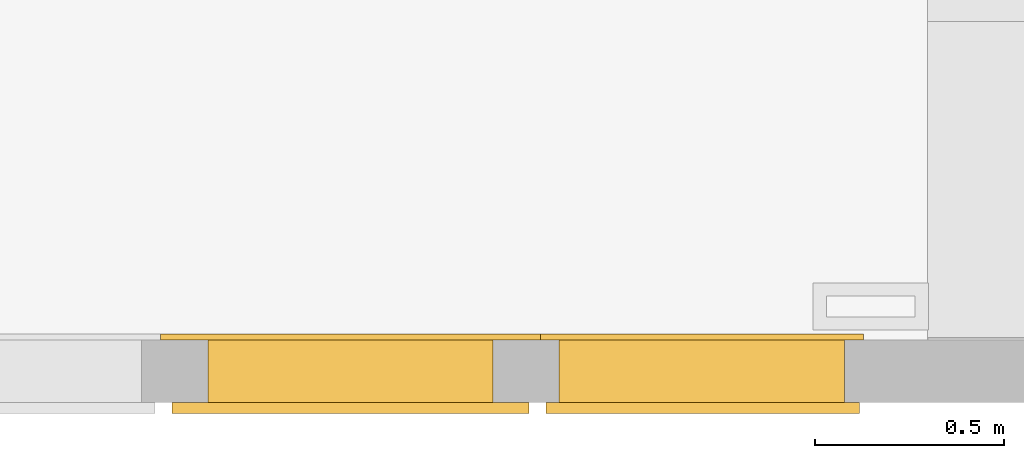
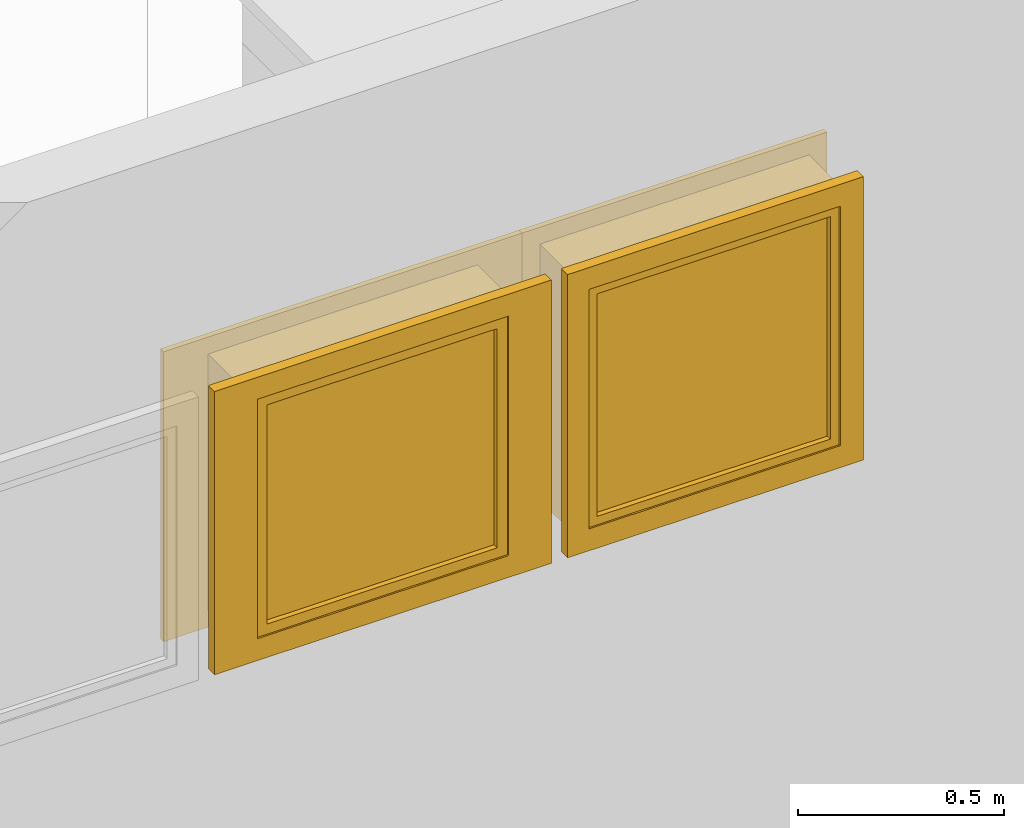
# One storey, part 33 of 77: 2 windows.
"""IFC2X3 building model written with IfcOpenShell, lengths in inches."""

import ifcopenshell
import ifcopenshell.guid

model = None  # the IFC model being written
_history = None  # IfcOwnerHistory: only IFC2X3 demands one
_inside = {}  # id of a spatial element -> (the spatial element, [elements in it])
_under = {}  # id of a project, library or spatial element -> (it, [spatial elements below it])
_declared = {}  # id of a project -> (the project, [libraries it declares])
_typed = {}  # id of a type object -> (the type object, [elements of that type])
_made_of = {}  # id of a material, layer set ... -> (it, [elements and type objects made of it])


def new_model(schema):
    """Start an empty IFC model of exactly this schema.

    Asked for "IFC4X3", IfcOpenShell would pick the latest addendum, in which some entities
    have other attributes; the version numbers below select the first issue.
    IFC2X3 requires an IfcOwnerHistory on every rooted entity: one is made here for all.
    """
    global model, _history
    if schema == "IFC4X3":
        model = ifcopenshell.file(schema_version=(4, 3, 0, 0))
    else:
        model = ifcopenshell.file(schema=schema)
    _inside.clear()
    _under.clear()
    _declared.clear()
    _typed.clear()
    _made_of.clear()
    _history = None
    if model.schema == "IFC2X3":
        org = make("IfcOrganization", Name="unknown")
        user = make(
            "IfcPersonAndOrganization",
            ThePerson=make("IfcPerson", FamilyName="unknown"),
            TheOrganization=org,
        )
        app = make(
            "IfcApplication",
            ApplicationDeveloper=org,
            Version="unknown",
            ApplicationFullName="unknown",
            ApplicationIdentifier="unknown",
        )
        _history = make(
            "IfcOwnerHistory",
            OwningUser=user,
            OwningApplication=app,
            ChangeAction="ADDED",
            CreationDate=0,
        )
    return model


def make(cls, **values):
    """One entity of the class cls with the attributes given. An attribute that is None is left unset."""
    return model.create_entity(
        cls, **{name: value for name, value in values.items() if value is not None}
    )


def entity(cls, *values):
    """Any entity or typed value of the class cls, its attributes in the order of the schema. None: left unset."""
    e = model.create_entity(cls)
    for i, value in enumerate(values):
        if value is not None:
            e[i] = value
    return e


def rooted(cls, **values):
    """An entity with a GlobalId (a new one), such as an element, a storey or a relation."""
    return make(cls, GlobalId=ifcopenshell.guid.new(), OwnerHistory=_history, **values)


def si_unit(unit_type, name, prefix=None):
    """IfcSIUnit, for example si_unit("LENGTHUNIT", "METRE", prefix="MILLI")."""
    return make("IfcSIUnit", UnitType=unit_type, Prefix=prefix, Name=name)


def converted_unit(unit_type, name, factor, base, dimensions=None, offset=None):
    """IfcConversionBasedUnit, such as the inch: factor (a typed value) times the base unit."""
    return make(
        "IfcConversionBasedUnit"
        if offset is None
        else "IfcConversionBasedUnitWithOffset",
        ConversionOffset=offset,
        Dimensions=None
        if dimensions is None
        else entity("IfcDimensionalExponents", *dimensions),
        UnitType=unit_type,
        Name=name,
        ConversionFactor=make(
            "IfcMeasureWithUnit", ValueComponent=factor, UnitComponent=base
        ),
    )


def derived_unit(unit_type, elements):
    """IfcDerivedUnit: a product of units, each with its exponent."""
    return make(
        "IfcDerivedUnit",
        Elements=[
            make("IfcDerivedUnitElement", Unit=unit, Exponent=power)
            for unit, power in elements
        ],
        UnitType=unit_type,
    )


def money_unit(currency):
    """IfcMonetaryUnit."""
    return make("IfcMonetaryUnit", Currency=currency)


def assignment(units):
    """IfcUnitAssignment: the units of a project."""
    return None if units is None else make("IfcUnitAssignment", Units=units)


def point(xyz):
    """IfcCartesianPoint."""
    return None if xyz is None else make("IfcCartesianPoint", Coordinates=xyz)


def direction(xyz):
    """IfcDirection."""
    return None if xyz is None else make("IfcDirection", DirectionRatios=xyz)


def frame(location, z_axis=None, x_axis=None):
    """IfcAxis2Placement3D, a coordinate frame: its origin and axes. An axis left out is left unset."""
    return make(
        "IfcAxis2Placement3D",
        Location=point(location),
        Axis=direction(z_axis),
        RefDirection=direction(x_axis),
    )


def origin_with_axes():
    """The frame at (0, 0, 0) with the z axis (0, 0, 1) and the x axis (1, 0, 0) written out."""
    return frame((0.0, 0.0, 0.0), z_axis=(0.0, 0.0, 1.0), x_axis=(1.0, 0.0, 0.0))


def place(relative_to, where):
    """IfcLocalPlacement: puts the frame where relative to a parent placement (None: the world)."""
    return make(
        "IfcLocalPlacement", PlacementRelTo=relative_to, RelativePlacement=where
    )


def context(
    kind, dimensions, precision=None, world=None, true_north=None, identifier=None
):
    """IfcGeometricRepresentationContext, for example the 3D "Model" context."""
    return make(
        "IfcGeometricRepresentationContext",
        ContextIdentifier=identifier,
        ContextType=kind,
        CoordinateSpaceDimension=dimensions,
        Precision=precision,
        WorldCoordinateSystem=world,
        TrueNorth=true_north,
    )


def subcontext(parent, identifier, kind, view, scale=None):
    """IfcGeometricRepresentationSubContext, for example "Body" below "Model"."""
    return make(
        "IfcGeometricRepresentationSubContext",
        ContextIdentifier=identifier,
        ContextType=kind,
        ParentContext=parent,
        TargetScale=scale,
        TargetView=view,
    )


def project(units=None, contexts=None):
    """IfcProject with its units and contexts."""
    return rooted(
        "IfcProject",
        Name="project",
        RepresentationContexts=contexts,
        UnitsInContext=assignment(units),
    )


def spatial(cls, under=None, at=None, **own):
    """A site, building, storey or space (cls), placed at a placement, below another one or the project."""
    s = rooted(cls, ObjectPlacement=at, **own)
    if under is not None:
        _under.setdefault(under.id(), (under, []))[1].append(s)
    return s


def faces_of(points, faces, orient=None, outer=None):
    """IfcFace entities. A face is a list of loops; a loop is a list of indices into points, from 0.

    orient and outer hold one flag for each loop. By default every Orientation is true, the
    first loop of a face is its IfcFaceOuterBound and the others are IfcFaceBound.
    """
    made = []
    for i, loops in enumerate(faces):
        bounds = []
        for j, loop in enumerate(loops):
            is_outer = j == 0 if outer is None else outer[i][j]
            bounds.append(
                make(
                    "IfcFaceOuterBound" if is_outer else "IfcFaceBound",
                    Bound=make("IfcPolyLoop", Polygon=[points[k] for k in loop]),
                    Orientation=True if orient is None else orient[i][j],
                )
            )
        made.append(make("IfcFace", Bounds=bounds))
    return made


def open_shell(faces, orient=None, outer=None):
    """The faces of one IfcOpenShell. surface_model builds it on its shared points."""
    return ("IfcOpenShell", faces, orient, outer)


def faceted_brep(points, faces, orient=None, outer=None, voids=None):
    """IfcFacetedBrep: a solid bounded by flat faces; with voids (closed shells), ...WithVoids."""
    shared = [point(p) for p in points]
    hull = make("IfcClosedShell", CfsFaces=faces_of(shared, faces, orient, outer))
    if voids is None:
        return make("IfcFacetedBrep", Outer=hull)
    return make(
        "IfcFacetedBrepWithVoids",
        Outer=hull,
        Voids=[
            make(cls, CfsFaces=faces_of(shared, fs, o, b)) for cls, fs, o, b in voids
        ],
    )


def surface_model(cls, points, shells):
    """IfcFaceBasedSurfaceModel or IfcShellBasedSurfaceModel (cls): surfaces that need not close."""
    shared = [point(p) for p in points]
    made = [make(c, CfsFaces=faces_of(shared, fs, o, b)) for c, fs, o, b in shells]
    if cls == "IfcFaceBasedSurfaceModel":
        return make(cls, FbsmFaces=made)
    return make(cls, SbsmBoundary=made)


def shape(context_of_items, identifier, shape_type, items):
    """IfcShapeRepresentation: the items that make up one representation, for example the "Body"."""
    return make(
        "IfcShapeRepresentation",
        ContextOfItems=context_of_items,
        RepresentationIdentifier=identifier,
        RepresentationType=shape_type,
        Items=items,
    )


def made_of(thing, what):
    """Note that an element or type object is made of a material, layer set ...; save() writes the relation."""
    if what is not None:
        _made_of.setdefault(what.id(), (what, []))[1].append(thing)
    return thing


def type_object(cls, material=None, **own):
    """A type object (cls), such as IfcWallType, which elements share."""
    return made_of(rooted(cls, **own), material)


def element(
    cls,
    number,
    at=None,
    inside=None,
    cuts=None,
    type_object=None,
    material=None,
    context=None,
    identifier="Body",
    shape_type=None,
    held_by="IfcProductDefinitionShape",
    body=None,
    shapes=None,
    **own,
):
    """One element of the class cls, such as IfcWall. Its Tag is "e" and its number.

    at: its placement. inside: the storey or other place that contains it. cuts: it is an
    opening in that element (IfcRelVoidsElement). A single representation is given by context,
    identifier, shape_type and body (its items); several are given by shapes. held_by: the class
    of the entity that holds the representations. save() writes the other relations.
    """
    e = rooted(cls, Tag="e%d" % number, ObjectPlacement=at, **own)
    if body is not None:
        shapes = [shape(context, identifier, shape_type, body)]
    if shapes is not None:
        e.Representation = make(held_by, Representations=shapes)
    if inside is not None:
        _inside.setdefault(inside.id(), (inside, []))[1].append(e)
    if cuts is not None:
        rooted(
            "IfcRelVoidsElement", RelatingBuildingElement=cuts, RelatedOpeningElement=e
        )
    if type_object is not None:
        _typed.setdefault(type_object.id(), (type_object, []))[1].append(e)
    return made_of(e, material)


def aggregate(whole, parts):
    """IfcRelAggregates: a whole, such as a stair, and the parts it consists of."""
    return rooted("IfcRelAggregates", RelatingObject=whole, RelatedObjects=parts)


def save(model, path):
    """Write the relations noted so far, then the file.

    IfcRelAggregates (storeys below a building ...), IfcRelContainedInSpatialStructure (elements
    in a storey), IfcRelDefinesByType, IfcRelAssociatesMaterial and IfcRelDeclares: one each for
    every whole, place, type object, material and project.
    """
    for whole, parts in _under.values():
        aggregate(whole, parts)
    for where, things in _inside.values():
        rooted(
            "IfcRelContainedInSpatialStructure",
            RelatedElements=things,
            RelatingStructure=where,
        )
    for kind, things in _typed.values():
        rooted("IfcRelDefinesByType", RelatedObjects=things, RelatingType=kind)
    for what, things in _made_of.values():
        rooted("IfcRelAssociatesMaterial", RelatedObjects=things, RelatingMaterial=what)
    for by, libraries in _declared.values():
        rooted("IfcRelDeclares", RelatingContext=by, RelatedDefinitions=libraries)
    model.write(path)


model = new_model("IFC2X3")

# Units and contexts
model_context = context("Model", 3, precision=0.000393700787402, world=origin_with_axes(), true_north=direction((0.0, 1.0)))
body_context = subcontext(model_context, "Body", "Model", "MODEL_VIEW")
ifc_project = project(units=[converted_unit("LENGTHUNIT", "INCH", entity("IfcPositiveLengthMeasure", 0.0254), si_unit("LENGTHUNIT", "METRE"), dimensions=[1, 0, 0, 0, 0, 0, 0]), converted_unit("AREAUNIT", "SQUARE_FOOT", entity("IfcPositiveLengthMeasure", 0.09290304), si_unit("AREAUNIT", "SQUARE_METRE"), dimensions=[2, 0, 0, 0, 0, 0, 0]), si_unit("PLANEANGLEUNIT", "RADIAN"), si_unit("SOLIDANGLEUNIT", "STERADIAN"), money_unit("USD"), converted_unit("TIMEUNIT", "Year", entity("IfcTimeMeasure", 31556926.0), si_unit("TIMEUNIT", "SECOND"), dimensions=[0, 0, 1, 0, 0, 0, 0]), si_unit("MASSUNIT", "GRAM", prefix="KILO"), si_unit("THERMODYNAMICTEMPERATUREUNIT", "DEGREE_CELSIUS"), si_unit("LUMINOUSINTENSITYUNIT", "LUMEN"), si_unit("ENERGYUNIT", "JOULE", prefix="MEGA"), derived_unit("THERMALCONDUCTANCEUNIT", [(si_unit("POWERUNIT", "WATT"), 1), (si_unit("LENGTHUNIT", "METRE"), -1), (si_unit("THERMODYNAMICTEMPERATUREUNIT", "KELVIN"), -1)]), derived_unit("SPECIFICHEATCAPACITYUNIT", [(si_unit("ENERGYUNIT", "JOULE"), 1), (si_unit("MASSUNIT", "GRAM", prefix="KILO"), -1), (si_unit("THERMODYNAMICTEMPERATUREUNIT", "KELVIN"), -1)]), derived_unit("MASSDENSITYUNIT", [(si_unit("MASSUNIT", "GRAM", prefix="KILO"), 1), (si_unit("VOLUMEUNIT", "CUBIC_METRE"), -1)])], contexts=[model_context])

# Site, building, storey
site_placement = place(None, origin_with_axes())
site = spatial("IfcSite", under=ifc_project, at=site_placement, Name="Site", CompositionType="ELEMENT")
building_placement = place(site_placement, origin_with_axes())
building = spatial("IfcBuilding", under=site, at=building_placement, Name="Building", CompositionType="ELEMENT")
storey_placement = place(building_placement, frame((0.0, 0.0, 127.952755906), z_axis=(0.0, 0.0, 1.0), x_axis=(1.0, 0.0, 0.0)))
storey = spatial("IfcBuildingStorey", under=building, at=storey_placement, Name="Second Floor", CompositionType="ELEMENT", Elevation=127.953)

# Windows
window_style_1 = type_object("IfcWindowStyle", Name="Window 25", ConstructionType="NOTDEFINED", OperationType="SINGLE_PANEL", ParameterTakesPrecedence=False, Sizeable=False)
window_1_placement = place(storey_placement, frame((562.690080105, 19.4073911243, 64.7637795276), z_axis=(0.0, 0.0, 1.0), x_axis=(-0.999999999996, -2.92832620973e-06, 0.0)))
element("IfcWindow", 1, at=window_1_placement, inside=storey, type_object=window_style_1, Name="W-09", OverallHeight=29.9213, OverallWidth=29.7244, context=body_context, shape_type="SurfaceModel", body=[
    faceted_brep([(29.7244094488, 0.397637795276, 0.0), (29.7244094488, 0.0, 0.0), (0.0, 0.0, 0.0), (0.0, 0.397637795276, 0.0), (29.7244094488, 0.397637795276, 29.9212598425), (29.7244094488, 0.0, 29.9212598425), (0.0, 0.0, 29.9212598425), (29.5275590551, 0.0, 0.196850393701), (0.196850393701, 0.0, 0.196850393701), (0.196850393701, 0.0, 29.7244094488), (29.5275590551, 0.0, 29.7244094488), (0.0, 0.397637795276, 29.9212598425), (29.5275590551, 0.397637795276, 0.196850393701), (29.5275590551, 0.397637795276, 29.7244094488), (0.196850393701, 0.397637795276, 29.7244094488), (0.196850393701, 0.397637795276, 0.196850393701)], [[[0, 1, 2, 3]], [[4, 5, 1, 0]], [[1, 5, 6, 2], [7, 8, 9, 10]], [[3, 2, 6, 11]], [[0, 3, 11, 4], [12, 13, 14, 15]], [[11, 6, 5, 4]], [[15, 8, 7, 12]], [[14, 9, 8, 15]], [[13, 10, 9, 14]], [[12, 7, 10, 13]]]),
    faceted_brep([(34.6456692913, -0.590551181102, -1.96850393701), (29.7244094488, -0.590551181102, 0.0), (29.7244094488, 0.0, 0.0), (34.6456692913, 0.0, -1.96850393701), (34.6456692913, -0.590551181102, 31.8897637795), (29.7244094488, -0.590551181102, 29.9212598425), (29.7244094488, 0.0, 29.9212598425), (34.6456692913, 0.0, 31.8897637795)], [[[0, 1, 2, 3]], [[0, 4, 5, 1]], [[1, 5, 6, 2]], [[3, 2, 6, 7]], [[4, 0, 3, 7]], [[5, 4, 7, 6]]]),
    faceted_brep([(-4.92125984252, -0.590551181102, 31.8897637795), (0.0, -0.590551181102, 29.9212598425), (0.0, 0.0, 29.9212598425), (-4.92125984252, 0.0, 31.8897637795), (-4.92125984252, -0.590551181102, -1.96850393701), (0.0, -0.590551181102, 0.0), (0.0, 0.0, 0.0), (-4.92125984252, 0.0, -1.96850393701)], [[[0, 1, 2, 3]], [[0, 4, 5, 1]], [[1, 5, 6, 2]], [[3, 2, 6, 7]], [[4, 0, 3, 7]], [[5, 4, 7, 6]]]),
    faceted_brep([(-4.92125984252, -0.590551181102, -1.96850393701), (0.0, -0.590551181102, 0.0), (0.0, 0.0, 0.0), (-4.92125984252, 0.0, -1.96850393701), (34.6456692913, -0.590551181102, -1.96850393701), (29.7244094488, -0.590551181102, 0.0), (29.7244094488, 0.0, 0.0), (34.6456692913, 0.0, -1.96850393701)], [[[0, 1, 2, 3]], [[0, 4, 5, 1]], [[1, 5, 6, 2]], [[3, 2, 6, 7]], [[4, 0, 3, 7]], [[5, 4, 7, 6]]]),
    faceted_brep([(34.6456692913, -0.590551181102, 31.8897637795), (29.7244094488, -0.590551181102, 29.9212598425), (29.7244094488, 0.0, 29.9212598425), (34.6456692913, 0.0, 31.8897637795), (-4.92125984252, -0.590551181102, 31.8897637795), (0.0, -0.590551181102, 29.9212598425), (0.0, 0.0, 29.9212598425), (-4.92125984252, 0.0, 31.8897637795)], [[[0, 1, 2, 3]], [[0, 4, 5, 1]], [[1, 5, 6, 2]], [[3, 2, 6, 7]], [[4, 0, 3, 7]], [[5, 4, 7, 6]]]),
    faceted_brep([(33.4645669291, 7.6811023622, -1.57480314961), (33.4645669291, 6.5, -1.57480314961), (28.7401574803, 6.5, 0.984251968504), (28.7401574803, 7.6811023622, 0.984251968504), (33.4645669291, 7.6811023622, 31.4960629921), (33.4645669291, 6.5, 31.4960629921), (28.7401574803, 6.5, 28.937007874), (28.7401574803, 7.6811023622, 28.937007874)], [[[0, 1, 2, 3]], [[4, 5, 1, 0]], [[1, 5, 6, 2]], [[3, 2, 6, 7]], [[0, 3, 7, 4]], [[7, 6, 5, 4]]]),
    faceted_brep([(-3.74015748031, 7.6811023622, 31.4960629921), (-3.74015748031, 6.5, 31.4960629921), (0.984251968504, 6.5, 28.937007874), (0.984251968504, 7.6811023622, 28.937007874), (-3.74015748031, 7.6811023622, -1.57480314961), (-3.74015748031, 6.5, -1.57480314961), (0.984251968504, 6.5, 0.984251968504), (0.984251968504, 7.6811023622, 0.984251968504)], [[[0, 1, 2, 3]], [[4, 5, 1, 0]], [[1, 5, 6, 2]], [[3, 2, 6, 7]], [[0, 3, 7, 4]], [[7, 6, 5, 4]]]),
    faceted_brep([(-3.74015748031, 7.6811023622, -1.57480314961), (-3.74015748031, 6.5, -1.57480314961), (0.984251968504, 6.5, 0.984251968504), (0.984251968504, 7.6811023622, 0.984251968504), (33.4645669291, 7.6811023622, -1.57480314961), (33.4645669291, 6.5, -1.57480314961), (28.7401574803, 6.5, 0.984251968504), (28.7401574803, 7.6811023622, 0.984251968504)], [[[0, 1, 2, 3]], [[4, 5, 1, 0]], [[1, 5, 6, 2]], [[3, 2, 6, 7]], [[0, 3, 7, 4]], [[7, 6, 5, 4]]]),
    faceted_brep([(33.4645669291, 7.6811023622, 31.4960629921), (33.4645669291, 6.5, 31.4960629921), (28.7401574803, 6.5, 28.937007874), (28.7401574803, 7.6811023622, 28.937007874), (-3.74015748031, 7.6811023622, 31.4960629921), (-3.74015748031, 6.5, 31.4960629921), (0.984251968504, 6.5, 28.937007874), (0.984251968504, 7.6811023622, 28.937007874)], [[[0, 1, 2, 3]], [[4, 5, 1, 0]], [[1, 5, 6, 2]], [[3, 2, 6, 7]], [[0, 3, 7, 4]], [[7, 6, 5, 4]]]),
    faceted_brep([(29.5275590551, 6.5, 28.7401574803), (29.5275590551, 5.5157480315, 28.7401574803), (28.5433070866, 5.5157480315, 28.7401574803), (28.5433070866, 0.397637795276, 28.7401574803), (29.7244094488, 0.397637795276, 28.7401574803), (29.7244094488, 6.5, 28.7401574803), (29.5275590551, 6.5, 1.1811023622), (29.5275590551, 5.5157480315, 1.1811023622), (28.5433070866, 5.5157480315, 1.1811023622), (28.5433070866, 0.397637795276, 1.1811023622), (29.7244094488, 0.397637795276, 1.1811023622), (29.7244094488, 6.5, 1.1811023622)], [[[0, 1, 2, 3, 4, 5]], [[1, 0, 6, 7]], [[8, 2, 1, 7]], [[2, 8, 9, 3]], [[4, 3, 9, 10]], [[5, 4, 10, 11]], [[6, 0, 5, 11]], [[7, 6, 11, 10, 9, 8]]]),
    faceted_brep([(1.1811023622, 5.5157480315, 28.7401574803), (0.196850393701, 5.5157480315, 28.7401574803), (0.196850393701, 6.5, 28.7401574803), (0.0, 6.5, 28.7401574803), (0.0, 0.397637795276, 28.7401574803), (1.1811023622, 0.397637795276, 28.7401574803), (1.1811023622, 5.5157480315, 1.1811023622), (0.196850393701, 5.5157480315, 1.1811023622), (0.196850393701, 6.5, 1.1811023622), (0.0, 6.5, 1.1811023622), (0.0, 0.397637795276, 1.1811023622), (1.1811023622, 0.397637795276, 1.1811023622)], [[[0, 1, 2, 3, 4, 5]], [[1, 0, 6, 7]], [[8, 2, 1, 7]], [[2, 8, 9, 3]], [[9, 10, 4, 3]], [[10, 11, 5, 4]], [[6, 0, 5, 11]], [[7, 6, 11, 10, 9, 8]]]),
    faceted_brep([(1.1811023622, 5.5157480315, 1.1811023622), (0.196850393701, 5.5157480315, 1.1811023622), (0.196850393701, 6.5, 1.1811023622), (0.0, 6.5, 1.1811023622), (0.0, 0.397637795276, 1.1811023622), (1.1811023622, 0.397637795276, 1.1811023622), (28.5433070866, 5.5157480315, 1.1811023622), (29.5275590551, 5.5157480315, 1.1811023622), (29.5275590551, 5.5157480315, 0.196850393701), (0.196850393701, 5.5157480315, 0.196850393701), (0.196850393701, 6.5, 0.196850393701), (29.5275590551, 6.5, 0.196850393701), (29.5275590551, 6.5, 1.1811023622), (29.7244094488, 6.5, 1.1811023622), (29.7244094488, 6.5, 0.0), (0.0, 6.5, 0.0), (0.0, 0.397637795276, 0.0), (29.7244094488, 0.397637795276, 1.1811023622), (28.5433070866, 0.397637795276, 1.1811023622), (29.7244094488, 0.397637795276, 0.0)], [[[0, 1, 2, 3, 4, 5]], [[1, 0, 6, 7, 8, 9]], [[10, 2, 1, 9]], [[11, 12, 13, 14, 15, 3, 2, 10]], [[15, 16, 4, 3]], [[17, 18, 5, 4, 16, 19]], [[6, 0, 5, 18]], [[7, 6, 18, 17, 13, 12]], [[7, 12, 11, 8]], [[11, 10, 9, 8]], [[13, 17, 19, 14]], [[14, 19, 16, 15]]]),
    faceted_brep([(29.5275590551, 6.5, 28.7401574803), (29.5275590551, 6.5, 29.7244094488), (0.196850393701, 6.5, 29.7244094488), (0.196850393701, 6.5, 28.7401574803), (0.0, 6.5, 28.7401574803), (0.0, 6.5, 29.9212598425), (29.7244094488, 6.5, 29.9212598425), (29.7244094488, 6.5, 28.7401574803), (29.5275590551, 5.5157480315, 28.7401574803), (29.5275590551, 5.5157480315, 29.7244094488), (0.196850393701, 5.5157480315, 29.7244094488), (0.196850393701, 5.5157480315, 28.7401574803), (1.1811023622, 5.5157480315, 28.7401574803), (1.1811023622, 0.397637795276, 28.7401574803), (0.0, 0.397637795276, 28.7401574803), (0.0, 0.397637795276, 29.9212598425), (29.7244094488, 0.397637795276, 29.9212598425), (29.7244094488, 0.397637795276, 28.7401574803), (28.5433070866, 0.397637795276, 28.7401574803), (28.5433070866, 5.5157480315, 28.7401574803)], [[[0, 1, 2, 3, 4, 5, 6, 7]], [[1, 0, 8, 9]], [[2, 1, 9, 10]], [[3, 2, 10, 11]], [[11, 12, 13, 14, 4, 3]], [[4, 14, 15, 5]], [[5, 15, 16, 6]], [[6, 16, 17, 7]], [[8, 0, 7, 17, 18, 19]], [[12, 11, 10, 9, 8, 19]], [[12, 19, 18, 13]], [[14, 13, 18, 17, 16, 15]]]),
    faceted_brep([(27.5590551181, 5.5157480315, 27.7559055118), (29.5275590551, 5.5157480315, 27.7559055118), (29.5275590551, 7.4842519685, 27.7559055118), (27.5590551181, 7.4842519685, 27.7559055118), (27.5590551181, 5.5157480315, 2.16535433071), (29.5275590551, 5.5157480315, 2.16535433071), (29.5275590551, 7.4842519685, 2.16535433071), (27.5590551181, 7.4842519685, 2.16535433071)], [[[0, 1, 2, 3]], [[0, 4, 5, 1]], [[1, 5, 6, 2]], [[3, 2, 6, 7]], [[4, 0, 3, 7]], [[5, 4, 7, 6]]]),
    faceted_brep([(2.16535433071, 5.5157480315, 2.16535433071), (0.196850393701, 5.5157480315, 2.16535433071), (0.196850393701, 7.4842519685, 2.16535433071), (2.16535433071, 7.4842519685, 2.16535433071), (2.16535433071, 5.5157480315, 27.7559055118), (0.196850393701, 5.5157480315, 27.7559055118), (0.196850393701, 7.4842519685, 27.7559055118), (2.16535433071, 7.4842519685, 27.7559055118)], [[[0, 1, 2, 3]], [[0, 4, 5, 1]], [[1, 5, 6, 2]], [[3, 2, 6, 7]], [[4, 0, 3, 7]], [[5, 4, 7, 6]]]),
    faceted_brep([(0.196850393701, 5.5157480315, 0.196850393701), (0.196850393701, 5.5157480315, 2.16535433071), (0.196850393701, 7.4842519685, 2.16535433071), (0.196850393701, 7.4842519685, 0.196850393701), (29.5275590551, 5.5157480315, 0.196850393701), (29.5275590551, 5.5157480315, 2.16535433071), (27.5590551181, 5.5157480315, 2.16535433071), (2.16535433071, 5.5157480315, 2.16535433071), (2.16535433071, 7.4842519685, 2.16535433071), (27.5590551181, 7.4842519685, 2.16535433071), (29.5275590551, 7.4842519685, 2.16535433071), (29.5275590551, 7.4842519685, 0.196850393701)], [[[0, 1, 2, 3]], [[0, 4, 5, 6, 7, 1]], [[1, 7, 8, 2]], [[3, 2, 8, 9, 10, 11]], [[4, 0, 3, 11]], [[5, 4, 11, 10]], [[6, 5, 10, 9]], [[7, 6, 9, 8]]]),
    faceted_brep([(29.5275590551, 5.5157480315, 29.7244094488), (29.5275590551, 5.5157480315, 27.7559055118), (29.5275590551, 7.4842519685, 27.7559055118), (29.5275590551, 7.4842519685, 29.7244094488), (0.196850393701, 5.5157480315, 29.7244094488), (0.196850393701, 5.5157480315, 27.7559055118), (2.16535433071, 5.5157480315, 27.7559055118), (27.5590551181, 5.5157480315, 27.7559055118), (27.5590551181, 7.4842519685, 27.7559055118), (2.16535433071, 7.4842519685, 27.7559055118), (0.196850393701, 7.4842519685, 27.7559055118), (0.196850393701, 7.4842519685, 29.7244094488)], [[[0, 1, 2, 3]], [[0, 4, 5, 6, 7, 1]], [[1, 7, 8, 2]], [[3, 2, 8, 9, 10, 11]], [[4, 0, 3, 11]], [[5, 4, 11, 10]], [[6, 5, 10, 9]], [[7, 6, 9, 8]]]),
    surface_model("IfcShellBasedSurfaceModel", [(27.5590551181, 6.1062992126, 2.16535433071), (27.5590551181, 6.1062992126, 27.7559055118), (2.16535433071, 6.1062992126, 27.7559055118), (2.16535433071, 6.1062992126, 2.16535433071)], [open_shell([[[0, 1, 2, 3]]])]),
    surface_model("IfcShellBasedSurfaceModel", [(27.5590551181, 6.8937007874, 2.16535433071), (2.16535433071, 6.8937007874, 2.16535433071), (2.16535433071, 6.8937007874, 27.7559055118), (27.5590551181, 6.8937007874, 27.7559055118)], [open_shell([[[0, 1, 2, 3]]])]),
])
window_style_2 = type_object("IfcWindowStyle", Name="Window 25", ConstructionType="NOTDEFINED", OperationType="SINGLE_PANEL", ParameterTakesPrecedence=False, Sizeable=False)
window_2_placement = place(storey_placement, frame((599.304253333, 19.4074983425, 64.7637795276), z_axis=(0.0, 0.0, 1.0), x_axis=(-0.999999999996, -2.92832620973e-06, 0.0)))
element("IfcWindow", 2, at=window_2_placement, inside=storey, type_object=window_style_2, Name="W-10", OverallHeight=29.9213, OverallWidth=29.7244, context=body_context, shape_type="SurfaceModel", body=[
    faceted_brep([(29.7244094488, 0.397637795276, 0.0), (29.7244094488, 0.0, 0.0), (0.0, 0.0, 0.0), (0.0, 0.397637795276, 0.0), (29.7244094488, 0.397637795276, 29.9212598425), (29.7244094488, 0.0, 29.9212598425), (0.0, 0.0, 29.9212598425), (29.5275590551, 0.0, 0.196850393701), (0.196850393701, 0.0, 0.196850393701), (0.196850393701, 0.0, 29.7244094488), (29.5275590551, 0.0, 29.7244094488), (0.0, 0.397637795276, 29.9212598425), (29.5275590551, 0.397637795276, 0.196850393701), (29.5275590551, 0.397637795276, 29.7244094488), (0.196850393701, 0.397637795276, 29.7244094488), (0.196850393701, 0.397637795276, 0.196850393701)], [[[0, 1, 2, 3]], [[4, 5, 1, 0]], [[1, 5, 6, 2], [7, 8, 9, 10]], [[3, 2, 6, 11]], [[0, 3, 11, 4], [12, 13, 14, 15]], [[11, 6, 5, 4]], [[15, 8, 7, 12]], [[14, 9, 8, 15]], [[13, 10, 9, 14]], [[12, 7, 10, 13]]]),
    faceted_brep([(31.6929133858, -0.590551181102, -1.96850393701), (29.7244094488, -0.590551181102, 0.0), (29.7244094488, 0.0, 0.0), (31.6929133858, 0.0, -1.96850393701), (31.6929133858, -0.590551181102, 31.8897637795), (29.7244094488, -0.590551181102, 29.9212598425), (29.7244094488, 0.0, 29.9212598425), (31.6929133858, 0.0, 31.8897637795)], [[[0, 1, 2, 3]], [[0, 4, 5, 1]], [[1, 5, 6, 2]], [[3, 2, 6, 7]], [[4, 0, 3, 7]], [[5, 4, 7, 6]]]),
    faceted_brep([(-1.96850393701, -0.590551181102, 31.8897637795), (0.0, -0.590551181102, 29.9212598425), (0.0, 0.0, 29.9212598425), (-1.96850393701, 0.0, 31.8897637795), (-1.96850393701, -0.590551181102, -1.96850393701), (0.0, -0.590551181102, 0.0), (0.0, 0.0, 0.0), (-1.96850393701, 0.0, -1.96850393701)], [[[0, 1, 2, 3]], [[0, 4, 5, 1]], [[1, 5, 6, 2]], [[3, 2, 6, 7]], [[4, 0, 3, 7]], [[5, 4, 7, 6]]]),
    faceted_brep([(-1.96850393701, -0.590551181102, -1.96850393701), (0.0, -0.590551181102, 0.0), (0.0, 0.0, 0.0), (-1.96850393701, 0.0, -1.96850393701), (31.6929133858, -0.590551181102, -1.96850393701), (29.7244094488, -0.590551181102, 0.0), (29.7244094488, 0.0, 0.0), (31.6929133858, 0.0, -1.96850393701)], [[[0, 1, 2, 3]], [[0, 4, 5, 1]], [[1, 5, 6, 2]], [[3, 2, 6, 7]], [[4, 0, 3, 7]], [[5, 4, 7, 6]]]),
    faceted_brep([(31.6929133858, -0.590551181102, 31.8897637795), (29.7244094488, -0.590551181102, 29.9212598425), (29.7244094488, 0.0, 29.9212598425), (31.6929133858, 0.0, 31.8897637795), (-1.96850393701, -0.590551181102, 31.8897637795), (0.0, -0.590551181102, 29.9212598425), (0.0, 0.0, 29.9212598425), (-1.96850393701, 0.0, 31.8897637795)], [[[0, 1, 2, 3]], [[0, 4, 5, 1]], [[1, 5, 6, 2]], [[3, 2, 6, 7]], [[4, 0, 3, 7]], [[5, 4, 7, 6]]]),
    faceted_brep([(31.1023622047, 7.6811023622, -1.57480314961), (31.1023622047, 6.5, -1.57480314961), (28.7401574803, 6.5, 0.984251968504), (28.7401574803, 7.6811023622, 0.984251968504), (31.1023622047, 7.6811023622, 31.4960629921), (31.1023622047, 6.5, 31.4960629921), (28.7401574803, 6.5, 28.937007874), (28.7401574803, 7.6811023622, 28.937007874)], [[[0, 1, 2, 3]], [[4, 5, 1, 0]], [[1, 5, 6, 2]], [[3, 2, 6, 7]], [[0, 3, 7, 4]], [[7, 6, 5, 4]]]),
    faceted_brep([(-1.57480314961, 7.6811023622, 31.4960629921), (-1.57480314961, 6.5, 31.4960629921), (0.984251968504, 6.5, 28.937007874), (0.984251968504, 7.6811023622, 28.937007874), (-1.57480314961, 7.6811023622, -1.57480314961), (-1.57480314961, 6.5, -1.57480314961), (0.984251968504, 6.5, 0.984251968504), (0.984251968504, 7.6811023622, 0.984251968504)], [[[0, 1, 2, 3]], [[4, 5, 1, 0]], [[1, 5, 6, 2]], [[3, 2, 6, 7]], [[0, 3, 7, 4]], [[7, 6, 5, 4]]]),
    faceted_brep([(-1.57480314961, 7.6811023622, -1.57480314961), (-1.57480314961, 6.5, -1.57480314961), (0.984251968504, 6.5, 0.984251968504), (0.984251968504, 7.6811023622, 0.984251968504), (31.1023622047, 7.6811023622, -1.57480314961), (31.1023622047, 6.5, -1.57480314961), (28.7401574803, 6.5, 0.984251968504), (28.7401574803, 7.6811023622, 0.984251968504)], [[[0, 1, 2, 3]], [[4, 5, 1, 0]], [[1, 5, 6, 2]], [[3, 2, 6, 7]], [[0, 3, 7, 4]], [[7, 6, 5, 4]]]),
    faceted_brep([(31.1023622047, 7.6811023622, 31.4960629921), (31.1023622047, 6.5, 31.4960629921), (28.7401574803, 6.5, 28.937007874), (28.7401574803, 7.6811023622, 28.937007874), (-1.57480314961, 7.6811023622, 31.4960629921), (-1.57480314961, 6.5, 31.4960629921), (0.984251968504, 6.5, 28.937007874), (0.984251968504, 7.6811023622, 28.937007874)], [[[0, 1, 2, 3]], [[4, 5, 1, 0]], [[1, 5, 6, 2]], [[3, 2, 6, 7]], [[0, 3, 7, 4]], [[7, 6, 5, 4]]]),
    faceted_brep([(29.5275590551, 6.5, 28.7401574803), (29.5275590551, 5.5157480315, 28.7401574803), (28.5433070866, 5.5157480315, 28.7401574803), (28.5433070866, 0.397637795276, 28.7401574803), (29.7244094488, 0.397637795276, 28.7401574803), (29.7244094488, 6.5, 28.7401574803), (29.5275590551, 6.5, 1.1811023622), (29.5275590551, 5.5157480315, 1.1811023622), (28.5433070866, 5.5157480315, 1.1811023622), (28.5433070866, 0.397637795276, 1.1811023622), (29.7244094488, 0.397637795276, 1.1811023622), (29.7244094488, 6.5, 1.1811023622)], [[[0, 1, 2, 3, 4, 5]], [[1, 0, 6, 7]], [[8, 2, 1, 7]], [[2, 8, 9, 3]], [[4, 3, 9, 10]], [[5, 4, 10, 11]], [[6, 0, 5, 11]], [[7, 6, 11, 10, 9, 8]]]),
    faceted_brep([(1.1811023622, 5.5157480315, 28.7401574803), (0.196850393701, 5.5157480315, 28.7401574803), (0.196850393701, 6.5, 28.7401574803), (0.0, 6.5, 28.7401574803), (0.0, 0.397637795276, 28.7401574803), (1.1811023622, 0.397637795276, 28.7401574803), (1.1811023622, 5.5157480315, 1.1811023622), (0.196850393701, 5.5157480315, 1.1811023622), (0.196850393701, 6.5, 1.1811023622), (0.0, 6.5, 1.1811023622), (0.0, 0.397637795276, 1.1811023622), (1.1811023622, 0.397637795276, 1.1811023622)], [[[0, 1, 2, 3, 4, 5]], [[1, 0, 6, 7]], [[8, 2, 1, 7]], [[2, 8, 9, 3]], [[9, 10, 4, 3]], [[10, 11, 5, 4]], [[6, 0, 5, 11]], [[7, 6, 11, 10, 9, 8]]]),
    faceted_brep([(1.1811023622, 5.5157480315, 1.1811023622), (0.196850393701, 5.5157480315, 1.1811023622), (0.196850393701, 6.5, 1.1811023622), (0.0, 6.5, 1.1811023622), (0.0, 0.397637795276, 1.1811023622), (1.1811023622, 0.397637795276, 1.1811023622), (28.5433070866, 5.5157480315, 1.1811023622), (29.5275590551, 5.5157480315, 1.1811023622), (29.5275590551, 5.5157480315, 0.196850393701), (0.196850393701, 5.5157480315, 0.196850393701), (0.196850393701, 6.5, 0.196850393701), (29.5275590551, 6.5, 0.196850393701), (29.5275590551, 6.5, 1.1811023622), (29.7244094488, 6.5, 1.1811023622), (29.7244094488, 6.5, 0.0), (0.0, 6.5, 0.0), (0.0, 0.397637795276, 0.0), (29.7244094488, 0.397637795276, 1.1811023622), (28.5433070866, 0.397637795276, 1.1811023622), (29.7244094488, 0.397637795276, 0.0)], [[[0, 1, 2, 3, 4, 5]], [[1, 0, 6, 7, 8, 9]], [[10, 2, 1, 9]], [[11, 12, 13, 14, 15, 3, 2, 10]], [[15, 16, 4, 3]], [[17, 18, 5, 4, 16, 19]], [[6, 0, 5, 18]], [[7, 6, 18, 17, 13, 12]], [[7, 12, 11, 8]], [[11, 10, 9, 8]], [[13, 17, 19, 14]], [[14, 19, 16, 15]]]),
    faceted_brep([(29.5275590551, 6.5, 28.7401574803), (29.5275590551, 6.5, 29.7244094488), (0.196850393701, 6.5, 29.7244094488), (0.196850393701, 6.5, 28.7401574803), (0.0, 6.5, 28.7401574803), (0.0, 6.5, 29.9212598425), (29.7244094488, 6.5, 29.9212598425), (29.7244094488, 6.5, 28.7401574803), (29.5275590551, 5.5157480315, 28.7401574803), (29.5275590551, 5.5157480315, 29.7244094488), (0.196850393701, 5.5157480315, 29.7244094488), (0.196850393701, 5.5157480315, 28.7401574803), (1.1811023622, 5.5157480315, 28.7401574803), (1.1811023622, 0.397637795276, 28.7401574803), (0.0, 0.397637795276, 28.7401574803), (0.0, 0.397637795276, 29.9212598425), (29.7244094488, 0.397637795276, 29.9212598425), (29.7244094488, 0.397637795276, 28.7401574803), (28.5433070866, 0.397637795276, 28.7401574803), (28.5433070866, 5.5157480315, 28.7401574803)], [[[0, 1, 2, 3, 4, 5, 6, 7]], [[1, 0, 8, 9]], [[2, 1, 9, 10]], [[3, 2, 10, 11]], [[11, 12, 13, 14, 4, 3]], [[4, 14, 15, 5]], [[5, 15, 16, 6]], [[6, 16, 17, 7]], [[8, 0, 7, 17, 18, 19]], [[12, 11, 10, 9, 8, 19]], [[12, 19, 18, 13]], [[14, 13, 18, 17, 16, 15]]]),
    faceted_brep([(27.7559055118, 5.5157480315, 27.9527559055), (29.5275590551, 5.5157480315, 27.9527559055), (29.5275590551, 7.4842519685, 27.9527559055), (27.7559055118, 7.4842519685, 27.9527559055), (27.7559055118, 5.5157480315, 1.96850393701), (29.5275590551, 5.5157480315, 1.96850393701), (29.5275590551, 7.4842519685, 1.96850393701), (27.7559055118, 7.4842519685, 1.96850393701)], [[[0, 1, 2, 3]], [[0, 4, 5, 1]], [[1, 5, 6, 2]], [[3, 2, 6, 7]], [[4, 0, 3, 7]], [[5, 4, 7, 6]]]),
    faceted_brep([(1.96850393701, 5.5157480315, 1.96850393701), (0.196850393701, 5.5157480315, 1.96850393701), (0.196850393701, 7.4842519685, 1.96850393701), (1.96850393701, 7.4842519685, 1.96850393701), (1.96850393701, 5.5157480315, 27.9527559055), (0.196850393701, 5.5157480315, 27.9527559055), (0.196850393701, 7.4842519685, 27.9527559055), (1.96850393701, 7.4842519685, 27.9527559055)], [[[0, 1, 2, 3]], [[0, 4, 5, 1]], [[1, 5, 6, 2]], [[3, 2, 6, 7]], [[4, 0, 3, 7]], [[5, 4, 7, 6]]]),
    faceted_brep([(0.196850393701, 5.5157480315, 0.196850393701), (0.196850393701, 5.5157480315, 1.96850393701), (0.196850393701, 7.4842519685, 1.96850393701), (0.196850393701, 7.4842519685, 0.196850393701), (29.5275590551, 5.5157480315, 0.196850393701), (29.5275590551, 5.5157480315, 1.96850393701), (27.7559055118, 5.5157480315, 1.96850393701), (1.96850393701, 5.5157480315, 1.96850393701), (1.96850393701, 7.4842519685, 1.96850393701), (27.7559055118, 7.4842519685, 1.96850393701), (29.5275590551, 7.4842519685, 1.96850393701), (29.5275590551, 7.4842519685, 0.196850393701)], [[[0, 1, 2, 3]], [[0, 4, 5, 6, 7, 1]], [[1, 7, 8, 2]], [[3, 2, 8, 9, 10, 11]], [[4, 0, 3, 11]], [[5, 4, 11, 10]], [[6, 5, 10, 9]], [[7, 6, 9, 8]]]),
    faceted_brep([(29.5275590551, 5.5157480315, 29.7244094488), (29.5275590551, 5.5157480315, 27.9527559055), (29.5275590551, 7.4842519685, 27.9527559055), (29.5275590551, 7.4842519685, 29.7244094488), (0.196850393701, 5.5157480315, 29.7244094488), (0.196850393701, 5.5157480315, 27.9527559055), (1.96850393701, 5.5157480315, 27.9527559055), (27.7559055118, 5.5157480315, 27.9527559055), (27.7559055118, 7.4842519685, 27.9527559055), (1.96850393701, 7.4842519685, 27.9527559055), (0.196850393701, 7.4842519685, 27.9527559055), (0.196850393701, 7.4842519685, 29.7244094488)], [[[0, 1, 2, 3]], [[0, 4, 5, 6, 7, 1]], [[1, 7, 8, 2]], [[3, 2, 8, 9, 10, 11]], [[4, 0, 3, 11]], [[5, 4, 11, 10]], [[6, 5, 10, 9]], [[7, 6, 9, 8]]]),
    surface_model("IfcShellBasedSurfaceModel", [(27.7559055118, 6.1062992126, 1.96850393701), (27.7559055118, 6.1062992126, 27.9527559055), (1.96850393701, 6.1062992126, 27.9527559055), (1.96850393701, 6.1062992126, 1.96850393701)], [open_shell([[[0, 1, 2, 3]]])]),
    surface_model("IfcShellBasedSurfaceModel", [(27.7559055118, 6.8937007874, 1.96850393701), (1.96850393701, 6.8937007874, 1.96850393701), (1.96850393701, 6.8937007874, 27.9527559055), (27.7559055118, 6.8937007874, 27.9527559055)], [open_shell([[[0, 1, 2, 3]]])]),
])

save(model, "model.ifc")
